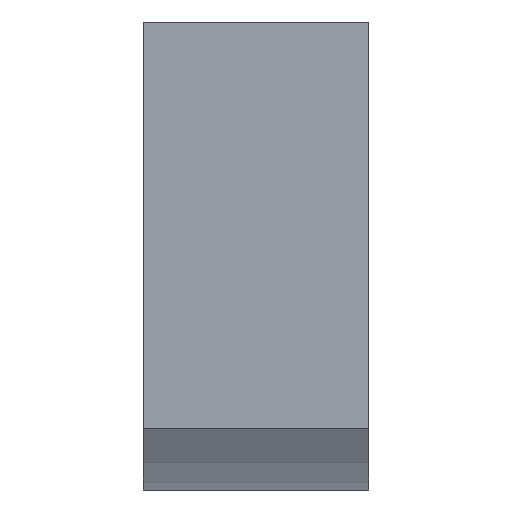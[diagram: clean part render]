
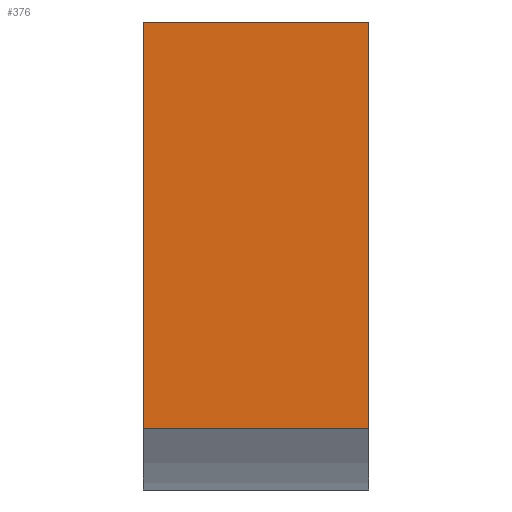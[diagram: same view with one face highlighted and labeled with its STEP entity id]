
A CAD part, front view. The second image highlights one B-rep face of the part: STEP entity #376.
In plain terms, the highlighted planar face has unit normal (0, -1, 0).
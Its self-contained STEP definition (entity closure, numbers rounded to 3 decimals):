
#24 = VERTEX_POINT('',#25);
#25 = CARTESIAN_POINT('',(-40.7,-16.,-8.059));
#33 = PLANE('',#34);
#34 = AXIS2_PLACEMENT_3D('',#35,#36,#37);
#35 = CARTESIAN_POINT('',(-40.7,-20.5,8.25));
#36 = DIRECTION('',(-1.,0.,0.));
#37 = DIRECTION('',(0.,0.,1.));
#45 = CYLINDRICAL_SURFACE('',#46,6.);
#46 = AXIS2_PLACEMENT_3D('',#47,#48,#49);
#47 = CARTESIAN_POINT('',(-40.,-14.5,-2.25));
#48 = DIRECTION('',(-1.,-0.,0.));
#49 = DIRECTION('',(0.,0.,-1.));
#57 = EDGE_CURVE('',#58,#24,#60,.T.);
#58 = VERTEX_POINT('',#59);
#59 = CARTESIAN_POINT('',(-40.7,-16.,-6.8));
#60 = SURFACE_CURVE('',#61,(#65,#71),.PCURVE_S1.);
#61 = LINE('',#62,#63);
#62 = CARTESIAN_POINT('',(-40.7,-16.,-0.075));
#63 = VECTOR('',#64,1.);
#64 = DIRECTION('',(0.,0.,-1.));
#65 = PCURVE('',#33,#66);
#66 = DEFINITIONAL_REPRESENTATION('',(#67),#70);
#67 = B_SPLINE_CURVE_WITH_KNOTS('',1,(#68,#69),.UNSPECIFIED.,.F.,.F.,(2,
    2),(6.725,8.175),.PIECEWISE_BEZIER_KNOTS.);
#68 = CARTESIAN_POINT('',(-15.05,4.5));
#69 = CARTESIAN_POINT('',(-16.5,4.5));
#70 = ( GEOMETRIC_REPRESENTATION_CONTEXT(2) 
PARAMETRIC_REPRESENTATION_CONTEXT() REPRESENTATION_CONTEXT('2D SPACE',''
  ) );
#71 = PCURVE('',#72,#77);
#72 = PLANE('',#73);
#73 = AXIS2_PLACEMENT_3D('',#74,#75,#76);
#74 = CARTESIAN_POINT('',(-41.,-16.,-8.4));
#75 = DIRECTION('',(0.,1.,0.));
#76 = DIRECTION('',(0.,0.,1.));
#77 = DEFINITIONAL_REPRESENTATION('',(#78),#81);
#78 = B_SPLINE_CURVE_WITH_KNOTS('',1,(#79,#80),.UNSPECIFIED.,.F.,.F.,(2,
    2),(6.725,8.175),.PIECEWISE_BEZIER_KNOTS.);
#79 = CARTESIAN_POINT('',(1.6,0.3));
#80 = CARTESIAN_POINT('',(0.15,0.3));
#81 = ( GEOMETRIC_REPRESENTATION_CONTEXT(2) 
PARAMETRIC_REPRESENTATION_CONTEXT() REPRESENTATION_CONTEXT('2D SPACE',''
  ) );
#98 = PLANE('',#99);
#99 = AXIS2_PLACEMENT_3D('',#100,#101,#102);
#100 = CARTESIAN_POINT('',(-41.,-16.,-6.8));
#101 = DIRECTION('',(0.,0.,1.));
#102 = DIRECTION('',(1.,0.,0.));
#188 = VERTEX_POINT('',#189);
#189 = CARTESIAN_POINT('',(-40.,-16.,-8.059));
#204 = PLANE('',#205);
#205 = AXIS2_PLACEMENT_3D('',#206,#207,#208);
#206 = CARTESIAN_POINT('',(-40.,-20.5,8.25));
#207 = DIRECTION('',(-1.,0.,0.));
#208 = DIRECTION('',(0.,0.,1.));
#216 = EDGE_CURVE('',#188,#24,#217,.T.);
#217 = SURFACE_CURVE('',#218,(#222,#228),.PCURVE_S1.);
#218 = LINE('',#219,#220);
#219 = CARTESIAN_POINT('',(-40.,-16.,-8.059));
#220 = VECTOR('',#221,1.);
#221 = DIRECTION('',(-1.,-0.,0.));
#222 = PCURVE('',#45,#223);
#223 = DEFINITIONAL_REPRESENTATION('',(#224),#227);
#224 = B_SPLINE_CURVE_WITH_KNOTS('',1,(#225,#226),.UNSPECIFIED.,.F.,.F.,
  (2,2),(0.,0.7),.PIECEWISE_BEZIER_KNOTS.);
#225 = CARTESIAN_POINT('',(0.253,0.));
#226 = CARTESIAN_POINT('',(0.253,0.7));
#227 = ( GEOMETRIC_REPRESENTATION_CONTEXT(2) 
PARAMETRIC_REPRESENTATION_CONTEXT() REPRESENTATION_CONTEXT('2D SPACE',''
  ) );
#228 = PCURVE('',#72,#229);
#229 = DEFINITIONAL_REPRESENTATION('',(#230),#233);
#230 = B_SPLINE_CURVE_WITH_KNOTS('',1,(#231,#232),.UNSPECIFIED.,.F.,.F.,
  (2,2),(0.,0.7),.PIECEWISE_BEZIER_KNOTS.);
#231 = CARTESIAN_POINT('',(0.341,1.));
#232 = CARTESIAN_POINT('',(0.341,0.3));
#233 = ( GEOMETRIC_REPRESENTATION_CONTEXT(2) 
PARAMETRIC_REPRESENTATION_CONTEXT() REPRESENTATION_CONTEXT('2D SPACE',''
  ) );
#335 = EDGE_CURVE('',#58,#336,#338,.T.);
#336 = VERTEX_POINT('',#337);
#337 = CARTESIAN_POINT('',(-40.,-16.,-6.8));
#338 = SURFACE_CURVE('',#339,(#343,#350),.PCURVE_S1.);
#339 = LINE('',#340,#341);
#340 = CARTESIAN_POINT('',(-41.,-16.,-6.8));
#341 = VECTOR('',#342,1.);
#342 = DIRECTION('',(1.,0.,0.));
#343 = PCURVE('',#98,#344);
#344 = DEFINITIONAL_REPRESENTATION('',(#345),#349);
#345 = LINE('',#346,#347);
#346 = CARTESIAN_POINT('',(0.,0.));
#347 = VECTOR('',#348,1.);
#348 = DIRECTION('',(1.,0.));
#349 = ( GEOMETRIC_REPRESENTATION_CONTEXT(2) 
PARAMETRIC_REPRESENTATION_CONTEXT() REPRESENTATION_CONTEXT('2D SPACE',''
  ) );
#350 = PCURVE('',#72,#351);
#351 = DEFINITIONAL_REPRESENTATION('',(#352),#356);
#352 = LINE('',#353,#354);
#353 = CARTESIAN_POINT('',(1.6,0.));
#354 = VECTOR('',#355,1.);
#355 = DIRECTION('',(0.,1.));
#356 = ( GEOMETRIC_REPRESENTATION_CONTEXT(2) 
PARAMETRIC_REPRESENTATION_CONTEXT() REPRESENTATION_CONTEXT('2D SPACE',''
  ) );
#376 = ADVANCED_FACE('',(#377),#72,.F.);
#377 = FACE_BOUND('',#378,.F.);
#378 = EDGE_LOOP('',(#379,#380,#399,#400));
#379 = ORIENTED_EDGE('',*,*,#335,.T.);
#380 = ORIENTED_EDGE('',*,*,#381,.T.);
#381 = EDGE_CURVE('',#336,#188,#382,.T.);
#382 = SURFACE_CURVE('',#383,(#387,#393),.PCURVE_S1.);
#383 = LINE('',#384,#385);
#384 = CARTESIAN_POINT('',(-40.,-16.,-0.075));
#385 = VECTOR('',#386,1.);
#386 = DIRECTION('',(0.,0.,-1.));
#387 = PCURVE('',#72,#388);
#388 = DEFINITIONAL_REPRESENTATION('',(#389),#392);
#389 = B_SPLINE_CURVE_WITH_KNOTS('',1,(#390,#391),.UNSPECIFIED.,.F.,.F.,
  (2,2),(6.725,8.175),.PIECEWISE_BEZIER_KNOTS.);
#390 = CARTESIAN_POINT('',(1.6,1.));
#391 = CARTESIAN_POINT('',(0.15,1.));
#392 = ( GEOMETRIC_REPRESENTATION_CONTEXT(2) 
PARAMETRIC_REPRESENTATION_CONTEXT() REPRESENTATION_CONTEXT('2D SPACE',''
  ) );
#393 = PCURVE('',#204,#394);
#394 = DEFINITIONAL_REPRESENTATION('',(#395),#398);
#395 = B_SPLINE_CURVE_WITH_KNOTS('',1,(#396,#397),.UNSPECIFIED.,.F.,.F.,
  (2,2),(6.725,8.175),.PIECEWISE_BEZIER_KNOTS.);
#396 = CARTESIAN_POINT('',(-15.05,4.5));
#397 = CARTESIAN_POINT('',(-16.5,4.5));
#398 = ( GEOMETRIC_REPRESENTATION_CONTEXT(2) 
PARAMETRIC_REPRESENTATION_CONTEXT() REPRESENTATION_CONTEXT('2D SPACE',''
  ) );
#399 = ORIENTED_EDGE('',*,*,#216,.T.);
#400 = ORIENTED_EDGE('',*,*,#57,.F.);
